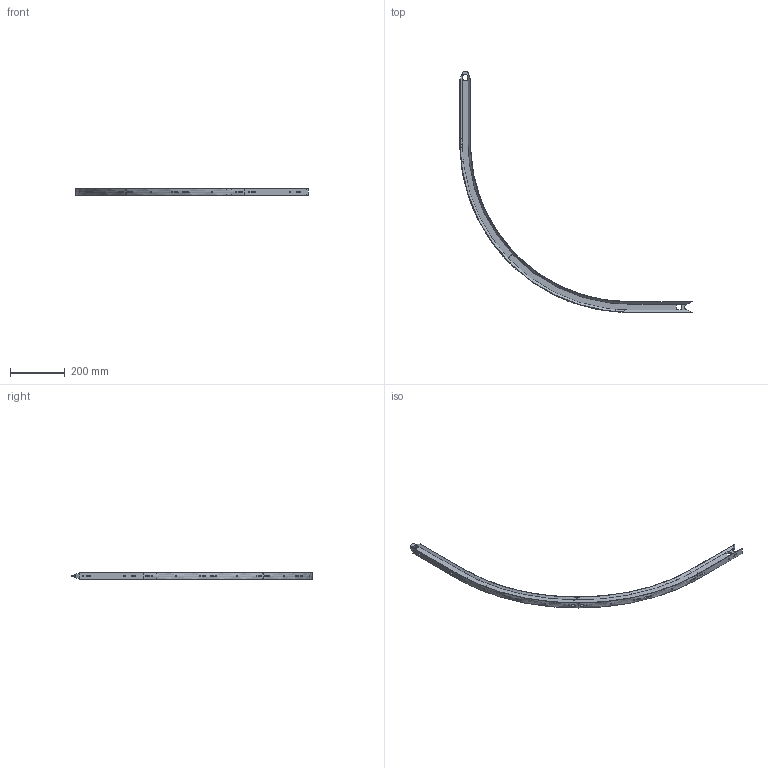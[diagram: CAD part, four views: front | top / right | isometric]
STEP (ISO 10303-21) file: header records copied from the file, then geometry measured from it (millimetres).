
FILE_DESCRIPTION(/* description */ (''),/* implementation_level */ '2;1');
FILE_NAME(/* name */ 'C:\_Vault-Workspace\CAD-Daten\XTS\87_Baukasten\Schiene\AT9025-1466-xx55.stp',/* time_stamp */ '2023-06-15T11:07:08+02:00',/* author */ ('FriedrichB'),/* organization */ (''),/* preprocessor_version */ 'ST-DEVELOPER v18.1',/* originating_system */ 'Autodesk Inventor 2022',/* authorisation */ '');
FILE_SCHEMA (('AUTOMOTIVE_DESIGN { 1 0 10303 214 3 1 1 }'));
Length unit declared in the file: millimetre
Products named in the file (3): Baugruppe2; 255533 ; 255679 
Assembly tree (2 placements, depth 2):
  Baugruppe2
    255533 
    255679 
Bounding box: 847.32 x 878.62 x 22.2 mm (x, y, z)
Volume: 568573.4 mm3; surface area: 204843.4 mm2
Topology: 2 solids, 2 shells, 234 faces, 637 edges, 435 vertices
Faces by surface type: plane 108, cylinder 86, cone 24, bspline 16
Full cylindrical faces by diameter (mm): 3.5 x2, 4 x8, 4.5 x16, 8 x16
Entity records: 10204 total; most frequent: CARTESIAN_POINT 4182, ORIENTED_EDGE 1258, DIRECTION 1118, EDGE_CURVE 629, VERTEX_POINT 433, AXIS2_PLACEMENT_3D 405, EDGE_LOOP 308, LINE 308
